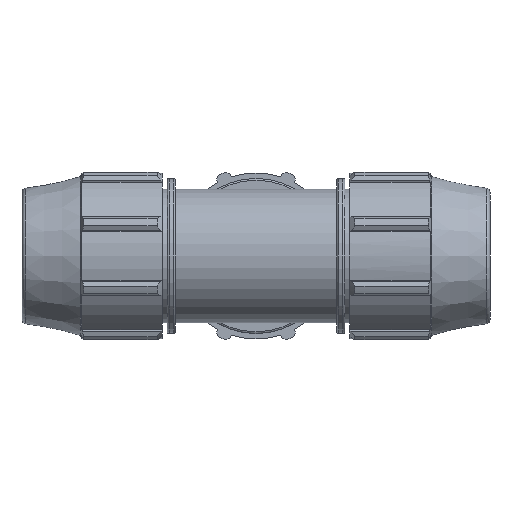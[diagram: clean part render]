
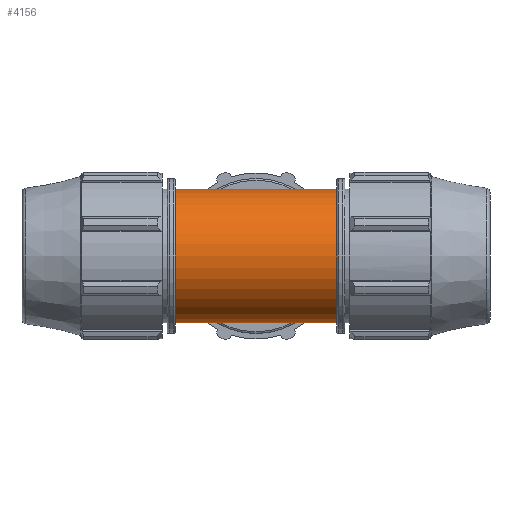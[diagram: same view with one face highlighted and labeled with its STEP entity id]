
A CAD part, front view. The second image highlights one B-rep face of the part: STEP entity #4156.
In plain terms, the highlighted cylindrical face has radius 36.005 mm (diameter 72.009 mm), a full revolution.
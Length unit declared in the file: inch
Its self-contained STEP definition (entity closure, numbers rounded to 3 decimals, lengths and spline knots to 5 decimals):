
#131=ELLIPSE('',#4401,2.00465,1.4175);
#132=ELLIPSE('',#4402,2.00465,1.4175);
#133=ELLIPSE('',#4404,2.00465,1.4175);
#134=ELLIPSE('',#4405,2.00465,1.4175);
#139=LINE('',#6065,#454);
#140=LINE('',#6071,#455);
#454=VECTOR('',#4864,1.4175);
#455=VECTOR('',#4869,1.4175);
#769=CYLINDRICAL_SURFACE('',#4398,1.4175);
#850=FACE_OUTER_BOUND('',#1064,.T.);
#1064=EDGE_LOOP('',(#2586,#2587,#2588,#2589,#2590,#2591,#2592,#2593,#2594,
#2595,#2596));
#1299=CIRCLE('',#4399,1.4175);
#1300=CIRCLE('',#4400,1.4175);
#1301=CIRCLE('',#4403,1.4175);
#1524=VERTEX_POINT('',#6060);
#1525=VERTEX_POINT('',#6061);
#1526=VERTEX_POINT('',#6064);
#1527=VERTEX_POINT('',#6066);
#1528=VERTEX_POINT('',#6068);
#1529=VERTEX_POINT('',#6070);
#1530=VERTEX_POINT('',#6073);
#1956=EDGE_CURVE('',#1524,#1525,#1299,.T.);
#1957=EDGE_CURVE('',#1525,#1524,#1300,.T.);
#1958=EDGE_CURVE('',#1525,#1526,#139,.T.);
#1959=EDGE_CURVE('',#1526,#1527,#131,.T.);
#1960=EDGE_CURVE('',#1527,#1528,#132,.T.);
#1961=EDGE_CURVE('',#1528,#1529,#140,.T.);
#1962=EDGE_CURVE('',#1529,#1529,#1301,.T.);
#1963=EDGE_CURVE('',#1528,#1530,#133,.T.);
#1964=EDGE_CURVE('',#1530,#1526,#134,.T.);
#2586=ORIENTED_EDGE('',*,*,#1956,.F.);
#2587=ORIENTED_EDGE('',*,*,#1957,.F.);
#2588=ORIENTED_EDGE('',*,*,#1958,.T.);
#2589=ORIENTED_EDGE('',*,*,#1959,.T.);
#2590=ORIENTED_EDGE('',*,*,#1960,.T.);
#2591=ORIENTED_EDGE('',*,*,#1961,.T.);
#2592=ORIENTED_EDGE('',*,*,#1962,.F.);
#2593=ORIENTED_EDGE('',*,*,#1961,.F.);
#2594=ORIENTED_EDGE('',*,*,#1963,.T.);
#2595=ORIENTED_EDGE('',*,*,#1964,.T.);
#2596=ORIENTED_EDGE('',*,*,#1958,.F.);
#4156=ADVANCED_FACE('',(#850),#769,.T.);
#4398=AXIS2_PLACEMENT_3D('',#6059,#4858,#4859);
#4399=AXIS2_PLACEMENT_3D('',#6062,#4860,#4861);
#4400=AXIS2_PLACEMENT_3D('',#6063,#4862,#4863);
#4401=AXIS2_PLACEMENT_3D('',#6067,#4865,#4866);
#4402=AXIS2_PLACEMENT_3D('',#6069,#4867,#4868);
#4403=AXIS2_PLACEMENT_3D('',#6072,#4870,#4871);
#4404=AXIS2_PLACEMENT_3D('',#6074,#4872,#4873);
#4405=AXIS2_PLACEMENT_3D('',#6075,#4874,#4875);
#4858=DIRECTION('center_axis',(-1.,0.,0.));
#4859=DIRECTION('ref_axis',(0.,-1.,0.));
#4860=DIRECTION('center_axis',(-1.,0.,0.));
#4861=DIRECTION('ref_axis',(0.,0.,-1.));
#4862=DIRECTION('center_axis',(-1.,0.,0.));
#4863=DIRECTION('ref_axis',(0.,0.,-1.));
#4864=DIRECTION('',(1.,0.,0.));
#4865=DIRECTION('center_axis',(-0.707,-0.707,0.));
#4866=DIRECTION('ref_axis',(-0.707,0.707,0.));
#4867=DIRECTION('center_axis',(0.707,-0.707,0.));
#4868=DIRECTION('ref_axis',(-0.707,-0.707,0.));
#4869=DIRECTION('',(1.,0.,0.));
#4870=DIRECTION('center_axis',(1.,0.,0.));
#4871=DIRECTION('ref_axis',(0.,0.,-1.));
#4872=DIRECTION('center_axis',(0.707,-0.707,0.));
#4873=DIRECTION('ref_axis',(-0.707,-0.707,0.));
#4874=DIRECTION('center_axis',(-0.707,-0.707,0.));
#4875=DIRECTION('ref_axis',(-0.707,0.707,0.));
#6059=CARTESIAN_POINT('Origin',(-1.468,0.,0.));
#6060=CARTESIAN_POINT('',(-1.716,-1.4175,0.));
#6061=CARTESIAN_POINT('',(-1.716,1.4175,0.));
#6062=CARTESIAN_POINT('Origin',(-1.716,0.,0.));
#6063=CARTESIAN_POINT('Origin',(-1.716,0.,0.));
#6064=CARTESIAN_POINT('',(-1.4175,1.4175,0.));
#6065=CARTESIAN_POINT('',(-1.468,1.4175,0.));
#6066=CARTESIAN_POINT('',(0.,0.,-1.4175));
#6067=CARTESIAN_POINT('Origin',(0.,0.,0.));
#6068=CARTESIAN_POINT('',(1.4175,1.4175,0.));
#6069=CARTESIAN_POINT('Origin',(0.,0.,0.));
#6070=CARTESIAN_POINT('',(1.716,1.4175,0.));
#6071=CARTESIAN_POINT('',(-1.468,1.4175,0.));
#6072=CARTESIAN_POINT('Origin',(1.716,0.,0.));
#6073=CARTESIAN_POINT('',(0.,0.,1.4175));
#6074=CARTESIAN_POINT('Origin',(0.,0.,0.));
#6075=CARTESIAN_POINT('Origin',(0.,0.,0.));
